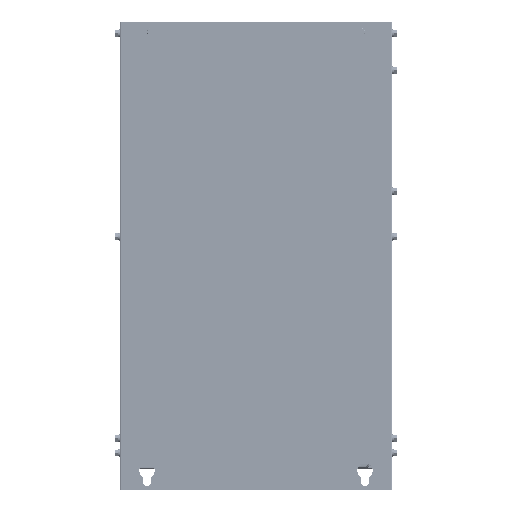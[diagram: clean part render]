
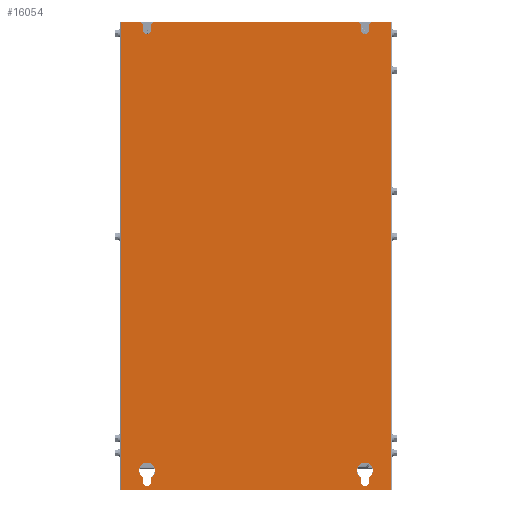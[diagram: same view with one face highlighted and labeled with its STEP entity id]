
A CAD part, front view. The second image highlights one B-rep face of the part: STEP entity #16054.
In plain terms, the highlighted planar face has unit normal (0, -1, 0).
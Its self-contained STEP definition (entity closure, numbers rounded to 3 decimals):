
#2434=DIRECTION('',(0.,0.,-1.));
#2435=VECTOR('',#2434,580.);
#2436=CARTESIAN_POINT('',(-167.,-1.5,289.));
#2437=LINE('',#2436,#2435);
#2441=DIRECTION('',(0.707,0.,-0.707));
#2442=VECTOR('',#2441,4.243);
#2443=CARTESIAN_POINT('',(-143.,-1.5,289.));
#2444=LINE('',#2443,#2442);
#2448=DIRECTION('',(0.,0.,-1.));
#2449=VECTOR('',#2448,7.);
#2450=CARTESIAN_POINT('',(-140.,-1.5,286.));
#2451=LINE('',#2450,#2449);
#2455=CARTESIAN_POINT('',(-135.,-1.5,279.));
#2456=DIRECTION('',(0.,-1.,0.));
#2457=DIRECTION('',(-1.,0.,0.));
#2458=AXIS2_PLACEMENT_3D('',#2455,#2456,#2457);
#2463=DIRECTION('',(0.,0.,1.));
#2464=VECTOR('',#2463,7.);
#2465=CARTESIAN_POINT('',(-130.,-1.5,279.));
#2466=LINE('',#2465,#2464);
#2470=DIRECTION('',(0.707,0.,0.707));
#2471=VECTOR('',#2470,4.243);
#2472=CARTESIAN_POINT('',(-130.,-1.5,286.));
#2473=LINE('',#2472,#2471);
#2477=DIRECTION('',(1.,0.,0.));
#2478=VECTOR('',#2477,254.);
#2479=CARTESIAN_POINT('',(-127.,-1.5,289.));
#2480=LINE('',#2479,#2478);
#2484=DIRECTION('',(0.707,0.,-0.707));
#2485=VECTOR('',#2484,4.243);
#2486=CARTESIAN_POINT('',(127.,-1.5,289.));
#2487=LINE('',#2486,#2485);
#2491=DIRECTION('',(0.,0.,-1.));
#2492=VECTOR('',#2491,7.);
#2493=CARTESIAN_POINT('',(130.,-1.5,286.));
#2494=LINE('',#2493,#2492);
#2498=CARTESIAN_POINT('',(135.,-1.5,279.));
#2499=DIRECTION('',(0.,-1.,0.));
#2500=DIRECTION('',(-1.,0.,0.));
#2501=AXIS2_PLACEMENT_3D('',#2498,#2499,#2500);
#2506=DIRECTION('',(0.,0.,1.));
#2507=VECTOR('',#2506,7.);
#2508=CARTESIAN_POINT('',(140.,-1.5,279.));
#2509=LINE('',#2508,#2507);
#2513=DIRECTION('',(0.707,0.,0.707));
#2514=VECTOR('',#2513,4.243);
#2515=CARTESIAN_POINT('',(140.,-1.5,286.));
#2516=LINE('',#2515,#2514);
#2520=DIRECTION('',(1.,0.,0.));
#2521=VECTOR('',#2520,24.);
#2522=CARTESIAN_POINT('',(143.,-1.5,289.));
#2523=LINE('',#2522,#2521);
#2527=DIRECTION('',(1.,0.,0.));
#2528=VECTOR('',#2527,24.);
#2529=CARTESIAN_POINT('',(-167.,-1.5,289.));
#2530=LINE('',#2529,#2528);
#2534=DIRECTION('',(0.,0.,-1.));
#2535=VECTOR('',#2534,5.34);
#2536=CARTESIAN_POINT('',(130.,-1.5,-275.66));
#2537=LINE('',#2536,#2535);
#2541=CARTESIAN_POINT('',(135.,-1.5,-281.));
#2542=DIRECTION('',(0.,-1.,0.));
#2543=DIRECTION('',(-1.,0.,0.));
#2544=AXIS2_PLACEMENT_3D('',#2541,#2542,#2543);
#2549=DIRECTION('',(0.,0.,1.));
#2550=VECTOR('',#2549,5.34);
#2551=CARTESIAN_POINT('',(140.,-1.5,-281.));
#2552=LINE('',#2551,#2550);
#2556=CARTESIAN_POINT('',(135.,-1.5,-267.));
#2557=DIRECTION('',(0.,-1.,0.));
#2558=DIRECTION('',(0.5,0.,-0.866));
#2559=AXIS2_PLACEMENT_3D('',#2556,#2557,#2558);
#2564=CARTESIAN_POINT('',(135.,-1.5,-267.));
#2565=DIRECTION('',(0.,-1.,0.));
#2566=DIRECTION('',(-0.5,0.,0.866));
#2567=AXIS2_PLACEMENT_3D('',#2564,#2565,#2566);
#2572=CARTESIAN_POINT('',(-135.,-1.5,-267.));
#2573=DIRECTION('',(0.,-1.,0.));
#2574=DIRECTION('',(0.5,0.,-0.866));
#2575=AXIS2_PLACEMENT_3D('',#2572,#2573,#2574);
#2580=CARTESIAN_POINT('',(-135.,-1.5,-267.));
#2581=DIRECTION('',(0.,-1.,0.));
#2582=DIRECTION('',(0.5,0.,0.866));
#2583=AXIS2_PLACEMENT_3D('',#2580,#2581,#2582);
#2588=CARTESIAN_POINT('',(-135.,-1.5,-281.));
#2589=DIRECTION('',(0.,-1.,0.));
#2590=DIRECTION('',(-1.,0.,0.));
#2591=AXIS2_PLACEMENT_3D('',#2588,#2589,#2590);
#4995=DIRECTION('',(0.,0.,1.));
#4996=VECTOR('',#4995,580.);
#4997=CARTESIAN_POINT('',(167.,-1.5,-291.));
#4998=LINE('',#4997,#4996);
#5032=DIRECTION('',(1.,0.,0.));
#5033=VECTOR('',#5032,334.);
#5034=CARTESIAN_POINT('',(-167.,-1.5,-291.));
#5035=LINE('',#5034,#5033);
#8532=DIRECTION('',(0.,0.,-1.));
#8533=VECTOR('',#8532,5.34);
#8534=CARTESIAN_POINT('',(-130.,-1.5,-275.66));
#8535=LINE('',#8534,#8533);
#8553=DIRECTION('',(0.,0.,1.));
#8554=VECTOR('',#8553,5.34);
#8555=CARTESIAN_POINT('',(-140.,-1.5,-281.));
#8556=LINE('',#8555,#8554);
#13113=CARTESIAN_POINT('',(143.,-1.5,289.));
#13115=VERTEX_POINT('',#13113);
#13131=CARTESIAN_POINT('',(167.,-1.5,289.));
#13132=VERTEX_POINT('',#13131);
#13135=CARTESIAN_POINT('',(140.,-1.5,286.));
#13136=VERTEX_POINT('',#13135);
#13181=CARTESIAN_POINT('',(-130.,-1.5,-275.66));
#13182=VERTEX_POINT('',#13181);
#13183=CARTESIAN_POINT('',(-130.,-1.5,-281.));
#13184=VERTEX_POINT('',#13183);
#13185=CARTESIAN_POINT('',(-140.,-1.5,-275.66));
#13186=VERTEX_POINT('',#13185);
#13187=CARTESIAN_POINT('',(-130.,-1.5,-258.34));
#13188=VERTEX_POINT('',#13187);
#13189=CARTESIAN_POINT('',(-140.,-1.5,-281.));
#13190=VERTEX_POINT('',#13189);
#13191=CARTESIAN_POINT('',(-143.,-1.5,289.));
#13192=CARTESIAN_POINT('',(-140.,-1.5,286.));
#13193=VERTEX_POINT('',#13191);
#13194=VERTEX_POINT('',#13192);
#13195=CARTESIAN_POINT('',(-140.,-1.5,279.));
#13196=VERTEX_POINT('',#13195);
#13197=CARTESIAN_POINT('',(-130.,-1.5,279.));
#13198=VERTEX_POINT('',#13197);
#13199=CARTESIAN_POINT('',(-130.,-1.5,286.));
#13200=VERTEX_POINT('',#13199);
#13201=CARTESIAN_POINT('',(-127.,-1.5,289.));
#13202=VERTEX_POINT('',#13201);
#13203=CARTESIAN_POINT('',(127.,-1.5,289.));
#13204=VERTEX_POINT('',#13203);
#13205=CARTESIAN_POINT('',(130.,-1.5,286.));
#13206=VERTEX_POINT('',#13205);
#13207=CARTESIAN_POINT('',(130.,-1.5,279.));
#13208=VERTEX_POINT('',#13207);
#13209=CARTESIAN_POINT('',(140.,-1.5,279.));
#13210=VERTEX_POINT('',#13209);
#13211=CARTESIAN_POINT('',(167.,-1.5,-291.));
#13212=VERTEX_POINT('',#13211);
#13213=CARTESIAN_POINT('',(-167.,-1.5,-291.));
#13214=VERTEX_POINT('',#13213);
#13215=CARTESIAN_POINT('',(-167.,-1.5,289.));
#13216=VERTEX_POINT('',#13215);
#13217=CARTESIAN_POINT('',(130.,-1.5,-275.66));
#13218=CARTESIAN_POINT('',(130.,-1.5,-281.));
#13219=VERTEX_POINT('',#13217);
#13220=VERTEX_POINT('',#13218);
#13221=CARTESIAN_POINT('',(140.,-1.5,-281.));
#13222=VERTEX_POINT('',#13221);
#13223=CARTESIAN_POINT('',(140.,-1.5,-275.66));
#13224=VERTEX_POINT('',#13223);
#13225=CARTESIAN_POINT('',(130.,-1.5,-258.34));
#13226=VERTEX_POINT('',#13225);
#15994=CARTESIAN_POINT('',(0.,-1.5,0.));
#15995=DIRECTION('',(0.,1.,0.));
#15996=DIRECTION('',(1.,0.,0.));
#15997=AXIS2_PLACEMENT_3D('',#15994,#15995,#15996);
#15998=PLANE('',#15997);
#15999=ORIENTED_EDGE('',*,*,#15027,.T.);
#16001=ORIENTED_EDGE('',*,*,#16000,.T.);
#16003=ORIENTED_EDGE('',*,*,#16002,.T.);
#16005=ORIENTED_EDGE('',*,*,#16004,.T.);
#16007=ORIENTED_EDGE('',*,*,#16006,.T.);
#16009=ORIENTED_EDGE('',*,*,#16008,.T.);
#16011=ORIENTED_EDGE('',*,*,#16010,.T.);
#16013=ORIENTED_EDGE('',*,*,#16012,.T.);
#16015=ORIENTED_EDGE('',*,*,#16014,.T.);
#16017=ORIENTED_EDGE('',*,*,#16016,.T.);
#16019=ORIENTED_EDGE('',*,*,#16018,.T.);
#16021=ORIENTED_EDGE('',*,*,#16020,.T.);
#16023=ORIENTED_EDGE('',*,*,#16022,.F.);
#16025=ORIENTED_EDGE('',*,*,#16024,.F.);
#16026=ORIENTED_EDGE('',*,*,#15988,.F.);
#16027=ORIENTED_EDGE('',*,*,#14986,.T.);
#16028=EDGE_LOOP('',(#15999,#16001,#16003,#16005,#16007,#16009,#16011,#16013,
#16015,#16017,#16019,#16021,#16023,#16025,#16026,#16027));
#16029=FACE_OUTER_BOUND('',#16028,.F.);
#16031=ORIENTED_EDGE('',*,*,#16030,.T.);
#16033=ORIENTED_EDGE('',*,*,#16032,.T.);
#16035=ORIENTED_EDGE('',*,*,#16034,.T.);
#16037=ORIENTED_EDGE('',*,*,#16036,.T.);
#16039=ORIENTED_EDGE('',*,*,#16038,.T.);
#16040=EDGE_LOOP('',(#16031,#16033,#16035,#16037,#16039));
#16041=FACE_BOUND('',#16040,.F.);
#16043=ORIENTED_EDGE('',*,*,#16042,.F.);
#16045=ORIENTED_EDGE('',*,*,#16044,.T.);
#16047=ORIENTED_EDGE('',*,*,#16046,.T.);
#16049=ORIENTED_EDGE('',*,*,#16048,.F.);
#16051=ORIENTED_EDGE('',*,*,#16050,.T.);
#16052=EDGE_LOOP('',(#16043,#16045,#16047,#16049,#16051));
#16053=FACE_BOUND('',#16052,.F.);
#2459=CIRCLE('',#2458,5.);
#2502=CIRCLE('',#2501,5.);
#2545=CIRCLE('',#2544,5.);
#2560=CIRCLE('',#2559,10.);
#2568=CIRCLE('',#2567,10.);
#2576=CIRCLE('',#2575,10.);
#2584=CIRCLE('',#2583,10.);
#2592=CIRCLE('',#2591,5.);
#14986=EDGE_CURVE('',#13216,#13193,#2530,.T.);
#15027=EDGE_CURVE('',#13193,#13194,#2444,.T.);
#15988=EDGE_CURVE('',#13216,#13214,#2437,.T.);
#16000=EDGE_CURVE('',#13194,#13196,#2451,.T.);
#16002=EDGE_CURVE('',#13196,#13198,#2459,.T.);
#16004=EDGE_CURVE('',#13198,#13200,#2466,.T.);
#16006=EDGE_CURVE('',#13200,#13202,#2473,.T.);
#16008=EDGE_CURVE('',#13202,#13204,#2480,.T.);
#16010=EDGE_CURVE('',#13204,#13206,#2487,.T.);
#16012=EDGE_CURVE('',#13206,#13208,#2494,.T.);
#16014=EDGE_CURVE('',#13208,#13210,#2502,.T.);
#16016=EDGE_CURVE('',#13210,#13136,#2509,.T.);
#16018=EDGE_CURVE('',#13136,#13115,#2516,.T.);
#16020=EDGE_CURVE('',#13115,#13132,#2523,.T.);
#16022=EDGE_CURVE('',#13212,#13132,#4998,.T.);
#16024=EDGE_CURVE('',#13214,#13212,#5035,.T.);
#16030=EDGE_CURVE('',#13219,#13220,#2537,.T.);
#16032=EDGE_CURVE('',#13220,#13222,#2545,.T.);
#16034=EDGE_CURVE('',#13222,#13224,#2552,.T.);
#16036=EDGE_CURVE('',#13224,#13226,#2560,.T.);
#16038=EDGE_CURVE('',#13226,#13219,#2568,.T.);
#16042=EDGE_CURVE('',#13182,#13184,#8535,.T.);
#16044=EDGE_CURVE('',#13182,#13188,#2576,.T.);
#16046=EDGE_CURVE('',#13188,#13186,#2584,.T.);
#16048=EDGE_CURVE('',#13190,#13186,#8556,.T.);
#16050=EDGE_CURVE('',#13190,#13184,#2592,.T.);
#16054=ADVANCED_FACE('',(#16029,#16041,#16053),#15998,.F.);
